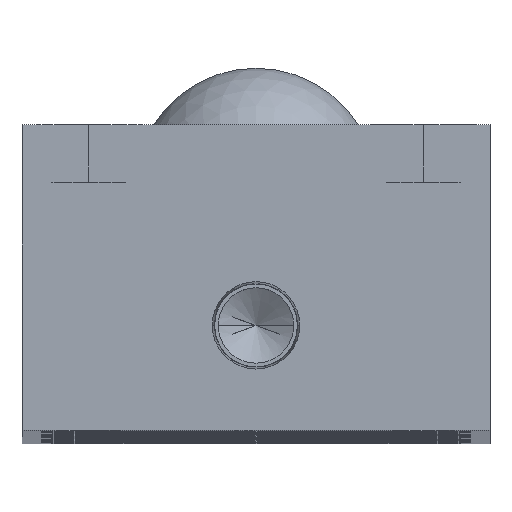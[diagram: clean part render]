
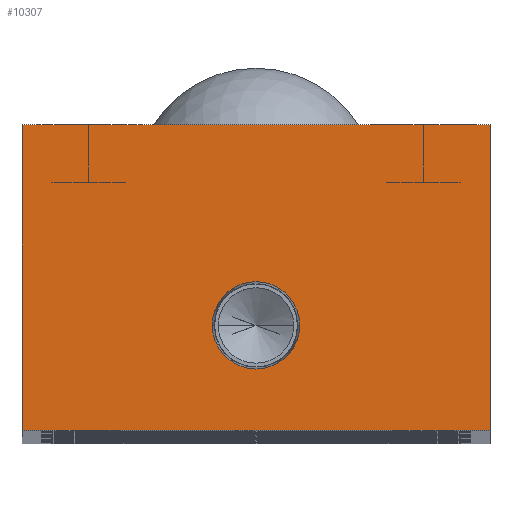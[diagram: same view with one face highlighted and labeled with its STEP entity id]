
A CAD part, top view. The second image highlights one B-rep face of the part: STEP entity #10307.
In plain terms, the highlighted planar face has unit normal (0, 0, 1).
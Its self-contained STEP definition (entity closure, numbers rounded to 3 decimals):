
#91 = CARTESIAN_POINT ( 'NONE',  ( 24.5, 0., 0. ) ) ;
#427 = EDGE_LOOP ( 'NONE', ( #13297, #7132 ) ) ;
#748 = LINE ( 'NONE', #12999, #5553 ) ;
#1165 = DIRECTION ( 'NONE',  ( 0., -1., 0. ) ) ;
#1528 = CARTESIAN_POINT ( 'NONE',  ( 24.5, 0., 0. ) ) ;
#1559 = CARTESIAN_POINT ( 'NONE',  ( 0., 11., 0. ) ) ;
#1592 = DIRECTION ( 'NONE',  ( 1., 0., 0. ) ) ;
#1646 = FACE_OUTER_BOUND ( 'NONE', #5199, .T. ) ;
#2204 = VECTOR ( 'NONE', #1165, 1000. ) ;
#2353 = EDGE_CURVE ( 'NONE', #15485, #15773, #13754, .T. ) ;
#2456 = DIRECTION ( 'NONE',  ( 0., 0., -1. ) ) ;
#2464 = ORIENTED_EDGE ( 'NONE', *, *, #7123, .T. ) ;
#2488 = CIRCLE ( 'NONE', #3178, 4.574 ) ;
#3020 = DIRECTION ( 'NONE',  ( 1., 0., 0. ) ) ;
#3178 = AXIS2_PLACEMENT_3D ( 'NONE', #16759, #8023, #18234 ) ;
#3331 = VECTOR ( 'NONE', #1592, 1000. ) ;
#3781 = LINE ( 'NONE', #91, #3331 ) ;
#3862 = EDGE_CURVE ( 'NONE', #17211, #12217, #2488, .T. ) ;
#4230 = DIRECTION ( 'NONE',  ( -1., 0., 0. ) ) ;
#4480 = ORIENTED_EDGE ( 'NONE', *, *, #8526, .T. ) ;
#5199 = EDGE_LOOP ( 'NONE', ( #8132, #2464, #13150, #4480 ) ) ;
#5553 = VECTOR ( 'NONE', #4230, 1000. ) ;
#6447 = EDGE_CURVE ( 'NONE', #6715, #14046, #18205, .T. ) ;
#6560 = CARTESIAN_POINT ( 'NONE',  ( 24.5, 32., 0. ) ) ;
#6715 = VERTEX_POINT ( 'NONE', #15137 ) ;
#6809 = CARTESIAN_POINT ( 'NONE',  ( 0., 0., 0. ) ) ;
#7123 = EDGE_CURVE ( 'NONE', #14046, #15485, #3781, .T. ) ;
#7132 = ORIENTED_EDGE ( 'NONE', *, *, #3862, .F. ) ;
#8023 = DIRECTION ( 'NONE',  ( 0., 0., 1. ) ) ;
#8132 = ORIENTED_EDGE ( 'NONE', *, *, #6447, .T. ) ;
#8526 = EDGE_CURVE ( 'NONE', #15773, #6715, #748, .T. ) ;
#8822 = DIRECTION ( 'NONE',  ( 0., 1., 0. ) ) ;
#10307 = ADVANCED_FACE ( 'NONE', ( #15351, #1646 ), #11202, .F. ) ;
#11202 = PLANE ( 'NONE',  #14215 ) ;
#11301 = CARTESIAN_POINT ( 'NONE',  ( -24.5, 0., 0. ) ) ;
#11378 = CARTESIAN_POINT ( 'NONE',  ( -24.5, 0., 0. ) ) ;
#11582 = CARTESIAN_POINT ( 'NONE',  ( -4.574, 11., 0. ) ) ;
#11775 = DIRECTION ( 'NONE',  ( 0., 0., 1. ) ) ;
#12217 = VERTEX_POINT ( 'NONE', #18547 ) ;
#12671 = DIRECTION ( 'NONE',  ( -1., 0., 0. ) ) ;
#12999 = CARTESIAN_POINT ( 'NONE',  ( -24.5, 32., 0. ) ) ;
#13150 = ORIENTED_EDGE ( 'NONE', *, *, #2353, .T. ) ;
#13294 = CIRCLE ( 'NONE', #13851, 4.574 ) ;
#13297 = ORIENTED_EDGE ( 'NONE', *, *, #14964, .F. ) ;
#13754 = LINE ( 'NONE', #17633, #17637 ) ;
#13851 = AXIS2_PLACEMENT_3D ( 'NONE', #1559, #11775, #3020 ) ;
#14046 = VERTEX_POINT ( 'NONE', #11301 ) ;
#14215 = AXIS2_PLACEMENT_3D ( 'NONE', #6809, #2456, #12671 ) ;
#14964 = EDGE_CURVE ( 'NONE', #12217, #17211, #13294, .T. ) ;
#15137 = CARTESIAN_POINT ( 'NONE',  ( -24.5, 32., 0. ) ) ;
#15351 = FACE_BOUND ( 'NONE', #427, .T. ) ;
#15485 = VERTEX_POINT ( 'NONE', #1528 ) ;
#15773 = VERTEX_POINT ( 'NONE', #6560 ) ;
#16759 = CARTESIAN_POINT ( 'NONE',  ( 0., 11., 0. ) ) ;
#17211 = VERTEX_POINT ( 'NONE', #11582 ) ;
#17633 = CARTESIAN_POINT ( 'NONE',  ( 24.5, 32., 0. ) ) ;
#17637 = VECTOR ( 'NONE', #8822, 1000. ) ;
#18205 = LINE ( 'NONE', #11378, #2204 ) ;
#18234 = DIRECTION ( 'NONE',  ( 1., 0., 0. ) ) ;
#18547 = CARTESIAN_POINT ( 'NONE',  ( 4.574, 11., 0. ) ) ;
